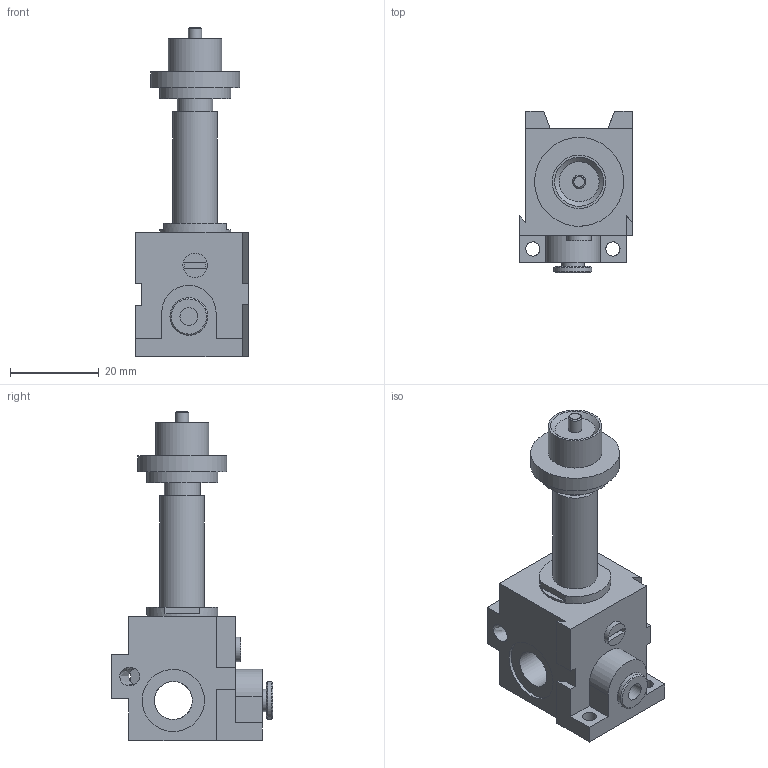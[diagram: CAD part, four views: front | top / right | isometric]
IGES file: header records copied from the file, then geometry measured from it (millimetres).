
Global section: file name: 345_M1-1; native system: Autodesk Inventor 2014; preprocessor: unknown; organization: Pneumax S.p.A.; date: 20161004.153122; units: millimetre
Bounding box: 25.4 x 36.4 x 74 mm (x, y, z)
Volume: 19295.7 mm3; surface area: 8131.1 mm2
Topology: 1 solids, 1 shells, 86 faces, 235 edges, 166 vertices
Faces by surface type: bspline 86
